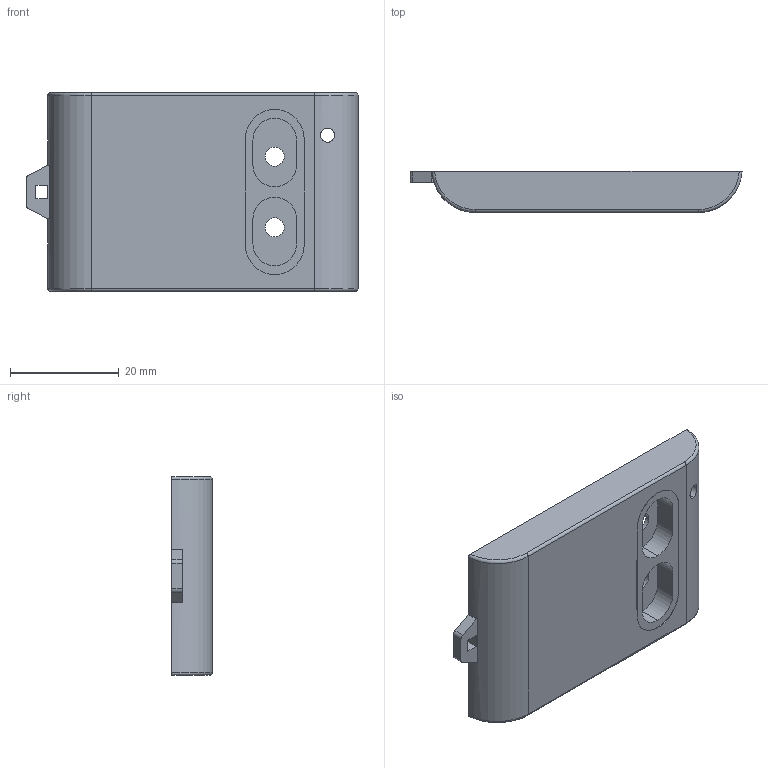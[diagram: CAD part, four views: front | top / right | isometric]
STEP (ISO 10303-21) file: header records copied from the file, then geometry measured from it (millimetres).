
FILE_DESCRIPTION (( 'STEP AP214' ), '1' );
FILE_NAME ('Tapa PP66.STEP', '2017-12-18T09:18:02', ( 'aaa' ), ( '' ), 'SwSTEP 2.0', 'SolidWorks 2013', '' );
FILE_SCHEMA (( 'AUTOMOTIVE_DESIGN' ));
Length unit declared in the file: millimetre
Products named in the file (1): Tapa PP66
Bounding box: 61 x 7.5 x 36.5 mm (x, y, z)
Volume: 4831.3 mm3; surface area: 6758.3 mm2
Topology: 1 solids, 1 shells, 92 faces, 245 edges, 160 vertices
Faces by surface type: plane 53, cylinder 35, torus 4
Entity records: 3020 total; most frequent: CARTESIAN_POINT 600, DIRECTION 507, ORIENTED_EDGE 490, EDGE_CURVE 245, AXIS2_PLACEMENT_3D 177, VERTEX_POINT 160, VECTOR 153, LINE 153
